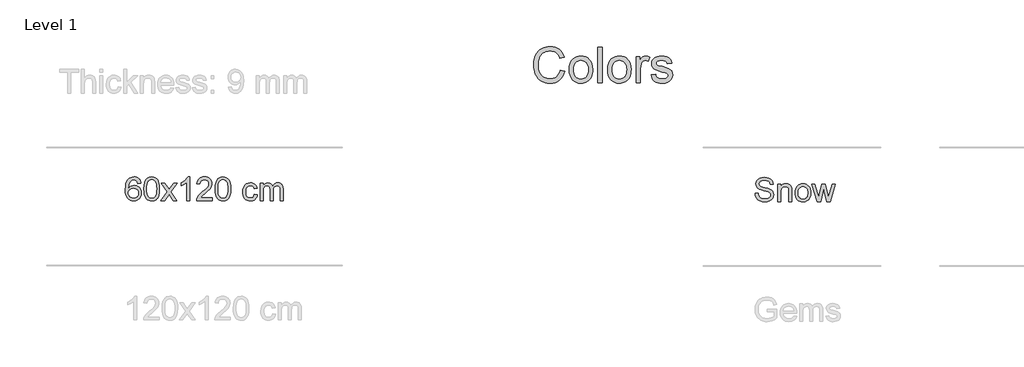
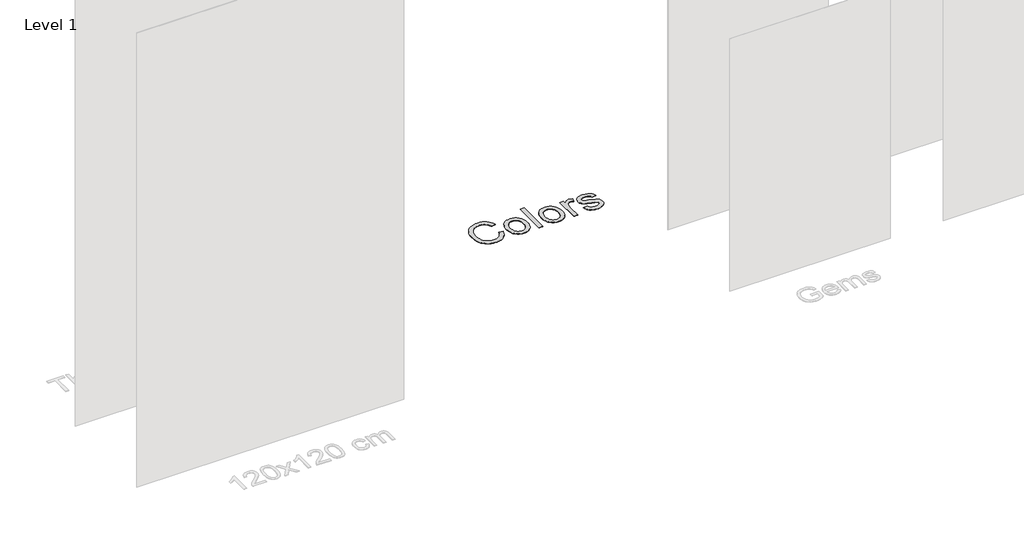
# One storey, part 4 of 7: 3 proxies.
"""IFC4 building model written with IfcOpenShell, lengths in millimetres."""

from ifc_helpers import new_model, si_unit, origin, origin_with_axes, place, context, project, spatial, polyline, outline, extrude, element, save

model = new_model("IFC4")

# Units and contexts
model_context = context("Model", 3, world=origin())
ifc_project = project(units=[si_unit("LENGTHUNIT", "METRE", prefix="MILLI")], contexts=[model_context])

# Site, building, storey
site = spatial("IfcSite", under=ifc_project)
building = spatial("IfcBuilding", under=site)
storey = spatial("IfcBuildingStorey", under=building, Name="Level 1", Elevation=0.0)

# Proxies
placement = place(None, origin())
element("IfcBuildingElementProxy", 1, Name="400mm Arial", ObjectType="400mm Arial", at=placement, inside=storey, context=model_context, shape_type="SweptSolid", body=[
    extrude(outline(polyline([(-4456.7985228, 9927.7533087), (-4406.5703677, 9927.7533087), (-4400.8068831, 9899.8801162), (-4390.3835599, 9877.4761027), (-4374.1231757, 9859.6951396), (-4350.8485082, 9845.6910983), (-4322.3989672, 9836.604413), (-4290.6139628, 9833.5755179), (-4262.6304057, 9835.868649), (-4238.1294648, 9842.7480423), (-4218.2760998, 9853.6373494), (-4204.2352703, 9867.9602217), (-4195.884349, 9884.4045469), (-4193.1007086, 9901.6582125), (-4195.1853733, 9918.4704196), (-4201.4393672, 9933.0017585), (-4214.1435587, 9945.3993817), (-4235.5788163, 9955.8104422), (-4308.713757, 9974.9893568), (-4356.7223573, 9987.6812857), (-4387.4405039, 9999.7600778), (-4412.4442169, 10016.6581242), (-4430.1638663, 10037.1368886), (-4440.7220796, 10060.7549126), (-4444.241484, 10087.070738), (-4439.8882137, 10116.4890349), (-4426.8284029, 10143.920769), (-4405.405408, 10167.1709111), (-4375.9625857, 10184.044432), (-4340.6213887, 10194.3083396), (-4301.5032699, 10197.7296422), (-4259.123264, 10194.1489241), (-4222.0407589, 10183.4067698), (-4191.5801297, 10165.7239086), (-4169.0657516, 10141.3210696), (-4154.8164557, 10111.7188317), (-4149.1510729, 10078.4377739), (-4199.379228, 10078.4377739), (-4208.6008033, 10108.4078938), (-4216.9639874, 10120.2659567), (-4227.828769, 10130.0393551), (-4257.8724652, 10143.1359541), (-4299.5412326, 10147.5014871), (-4342.1910185, 10143.185005), (-4358.4943223, 10137.7894024), (-4371.4498999, 10130.2355588), (-4388.3724717, 10111.1792715), (-4394.0133289, 10088.542266), (-4390.0156779, 10069.240724), (-4378.0227249, 10053.7161038), (-4349.6712858, 10039.8346899), (-4296.0095654, 10025.6589703), (-4240.6310624, 10012.1944893), (-4207.1292754, 10000.4467909), (-4178.4957934, 9982.2243694), (-4158.5198011, 9959.7345168), (-4146.7843654, 9933.2224877), (-4142.8725535, 9902.9335367), (-4147.3729766, 9871.9701355), (-4160.8742458, 9842.8461442), (-4182.8245382, 9817.7811176), (-4212.6720308, 9798.9946103), (-4248.5650508, 9787.2591747), (-4288.6519255, 9783.3473628), (-4337.8622737, 9787.565743), (-4378.3660814, 9800.2208837), (-4410.6293324, 9821.3618357), (-4435.1180105, 9851.0376499), (-4450.8388344, 9887.1881873), (-4456.7985228, 9927.7533087)])), origin_with_axes(), (0.0, 0.0, 1.0), 5.0),
    extrude(outline(polyline([(-4073.8088403, 9789.6258822), (-4073.8088403, 10084.7162933), (-4023.5806852, 10084.7162933), (-4023.5806852, 10043.5135098), (-4006.1308159, 10064.2865798), (-3985.1738049, 10079.1244869), (-3960.7096523, 10088.0272312), (-3932.7383579, 10090.9948127), (-3907.9798996, 10088.6035797), (-3885.306106, 10081.4298808), (-3866.3969714, 10070.3688955), (-3852.9324904, 10056.3158032), (-3843.7967542, 10039.3073923), (-3837.8738541, 10019.3804509), (-3835.2251037, 9970.8200276), (-3835.2251037, 9789.6258822), (-3885.4532588, 9789.6258822), (-3885.4532588, 9964.0509988), (-3886.9002613, 9990.0234677), (-3891.2412688, 10008.4911439), (-3899.2488336, 10021.722633), (-3911.6955078, 10031.9865406), (-3927.6493236, 10038.5716283), (-3946.1783135, 10040.7666576), (-3975.5966103, 10035.8370388), (-4000.6738997, 10021.0481826), (-4010.6956184, 10008.9755218), (-4017.8539888, 9992.4760143), (-4022.1490111, 9971.5496602), (-4023.5806852, 9946.1964594), (-4023.5806852, 9789.6258822), (-4073.8088403, 9789.6258822)])), origin_with_axes(), (0.0, 0.0, 1.0), 5.0),
    extrude(outline(polyline([(-3778.7184293, 9937.1710877), (-3776.0022339, 9975.3878957), (-3767.8536477, 10008.3194656), (-3754.2726707, 10035.9657975), (-3735.2593029, 10058.3268915), (-3716.1171764, 10072.619107), (-3694.9884871, 10082.8278324), (-3671.8732351, 10088.9530676), (-3646.7714203, 10090.9948127), (-3619.060709, 10088.5085435), (-3594.0048795, 10081.049736), (-3571.6039317, 10068.6183903), (-3551.8578656, 10051.2145062), (-3535.7415685, 10029.4266951), (-3524.2299277, 10003.843568), (-3517.3229433, 9974.465125), (-3515.0206151, 9941.2913661), (-3519.0918425, 9890.5481762), (-3531.3055248, 9851.9205667), (-3551.3060426, 9822.9927792), (-3578.7377767, 9801.3490551), (-3611.3198587, 9787.8477859), (-3646.7714203, 9783.3473628), (-3674.8868018, 9785.8244349), (-3700.1756233, 9793.2556512), (-3722.6378848, 9805.6410117), (-3742.2735863, 9822.9805164), (-3758.2182051, 9844.9798597), (-3769.6072185, 9871.3447361), (-3776.4406266, 9902.0751454), (-3778.7184293, 9937.1710877)]), holes=[polyline([(-3728.4902742, 9937.2691896), (-3727.0371403, 9912.9062045), (-3722.6777387, 9891.8112377), (-3715.4120692, 9873.9842894), (-3705.2401321, 9859.4253594), (-3692.8670343, 9848.1160538), (-3678.9978831, 9840.0379783), (-3663.6326784, 9835.191133), (-3646.7714203, 9833.5755179), (-3629.9960013, 9835.20033), (-3614.6921103, 9840.0747665), (-3600.8597473, 9848.1988272), (-3588.4989123, 9859.5725122), (-3578.3269751, 9874.2755293), (-3571.0613057, 9892.3875862), (-3566.7019041, 9913.9086829), (-3565.2487702, 9938.8388194), (-3566.7111011, 9962.4292524), (-3571.0980939, 9982.9723961), (-3578.4097486, 10000.4682507), (-3588.6460651, 10014.916816), (-3601.0528854, 10026.2261217), (-3614.8760513, 10034.3041972), (-3630.115563, 10039.1510425), (-3646.7714203, 10040.7666576), (-3663.6326784, 10039.1571738), (-3678.9978831, 10034.3287227), (-3692.8670343, 10026.281304), (-3705.2401321, 10015.0149179), (-3715.4120692, 10000.4989075), (-3722.6777387, 9982.702616), (-3727.0371403, 9961.6260434), (-3728.4902742, 9937.2691896)])]), origin_with_axes(), (0.0, 0.0, 1.0), 5.0),
    extrude(outline(polyline([(-3409.1687024, 9789.6258822), (-3499.3243166, 10084.7162933), (-3447.2322261, 10084.7162933), (-3396.2192561, 9912.5475195), (-3381.013467, 9851.0376499), (-3368.5545301, 9910.2911766), (-3328.0384597, 10084.7162933), (-3268.3925255, 10084.7162933), (-3227.8764551, 9910.7816859), (-3216.7909444, 9857.1199656), (-3200.8984422, 9913.7247419), (-3149.8854722, 10084.7162933), (-3097.499076, 10084.7162933), (-3187.9489959, 9789.6258822), (-3248.5759487, 9789.6258822), (-3287.2280837, 9962.6775727), (-3298.4116963, 10016.6335987), (-3348.1493421, 9789.6258822), (-3409.1687024, 9789.6258822)])), origin_with_axes(), (0.0, 0.0, 1.0), 5.0),
])
element("IfcBuildingElementProxy", 2, Name="400mm Arial", ObjectType="400mm Arial", at=placement, inside=storey, context=model_context, shape_type="SweptSolid", body=[
    extrude(outline(polyline([(-14846.8810506, 10100.1981534), (-14897.1092056, 10093.919634), (-14905.2026095, 10118.8129823), (-14916.1409675, 10135.8091305), (-14938.9251257, 10151.4809035), (-14966.4672245, 10156.7048278), (-14989.8154684, 10153.66367), (-15011.7902863, 10144.5401965), (-15030.6626326, 10125.3244936), (-15046.0768882, 10098.8737782), (-15056.4879487, 10061.4601793), (-15060.3507096, 10009.355826), (-15040.203039, 10032.8634855), (-15016.0577174, 10049.430438), (-14989.2636454, 10059.2528873), (-14961.1697237, 10062.5270371), (-14937.0366648, 10060.2890883), (-14914.7675414, 10053.5752418), (-14894.3623534, 10042.3854978), (-14875.8211008, 10026.7198562), (-14860.4129766, 10007.5102847), (-14849.4071736, 9985.688751), (-14842.8036918, 9961.2552552), (-14840.6025312, 9934.2097971), (-14844.747335, 9898.2432008), (-14857.1817464, 9864.9008293), (-14876.8756959, 9836.6229666), (-14902.7991138, 9815.8498966), (-14933.7747778, 9803.0843913), (-14968.6254655, 9798.8292229), (-14998.5679942, 9801.6496516), (-15025.6103865, 9810.1109374), (-15049.7526425, 9824.2130806), (-15070.994762, 9843.956081), (-15088.3128069, 9870.1738045), (-15100.682839, 9903.700117), (-15108.1048583, 9944.5350185), (-15110.5788647, 9992.6785089), (-15107.8320125, 10046.652929), (-15099.5914558, 10092.7178861), (-15085.8571946, 10130.8733804), (-15066.629229, 10161.1194118), (-15045.788714, 10181.1628491), (-15021.6249983, 10195.4795901), (-14994.1380819, 10204.0696347), (-14963.3279648, 10206.9329829), (-14940.1943186, 10205.161018), (-14919.2557017, 10199.8451231), (-14900.5121141, 10190.9852984), (-14883.9635557, 10178.5815438), (-14870.0576162, 10163.0507922), (-14859.2418856, 10144.8099767), (-14851.5163637, 10123.859097), (-14846.8810506, 10100.1981534)]), holes=[polyline([(-15060.3507096, 9934.9946121), (-15057.4444419, 9912.7377514), (-15048.7256386, 9891.4864348), (-15035.1875812, 9873.2149623), (-15017.823551, 9859.8976341), (-14996.86654, 9851.767442), (-14972.5495401, 9849.057378), (-14939.4033723, 9854.6737098), (-14925.4882359, 9861.6941245), (-14913.3450643, 9871.5227052), (-14903.4950239, 9883.7609129), (-14896.4592808, 9898.0102088), (-14890.8306862, 9932.5420654), (-14896.3857044, 9965.6882332), (-14903.329477, 9979.3090641), (-14913.0507588, 9990.9617263), (-14925.2307185, 10000.2967319), (-14939.5505251, 10006.9645931), (-14974.6096793, 10012.298882), (-15007.7067961, 10006.9645931), (-15035.3837849, 9990.9617263), (-15046.3068145, 9979.4623482), (-15054.1089784, 9966.3013699), (-15058.7902768, 9951.4787911), (-15060.3507096, 9934.9946121)])]), origin_with_axes(), (0.0, 0.0, 1.0), 5.0),
    extrude(outline(polyline([(-14796.6528955, 10002.783001), (-14792.9618128, 10067.1010365), (-14781.8885647, 10118.3960494), (-14763.5435159, 10157.4528546), (-14751.6854529, 10172.6862348), (-14738.0370309, 10185.0562669), (-14722.5522646, 10194.6273302), (-14705.1851687, 10201.4638039), (-14664.8039884, 10206.9329829), (-14633.8528499, 10203.6956213), (-14606.1390729, 10193.9835367), (-14582.9625072, 10178.1768736), (-14565.6230025, 10156.6557769), (-14552.5264035, 10129.6041875), (-14542.0785548, 10097.2060465), (-14535.2359497, 10056.0645767), (-14532.9550813, 10002.783001), (-14536.6093758, 9938.8328476), (-14547.5722593, 9887.660462), (-14565.8069435, 9848.5668687), (-14577.6374153, 9833.2875031), (-14591.2766403, 9820.8530917), (-14606.7798007, 9811.2176491), (-14624.2020789, 9804.3351901), (-14664.8039884, 9798.8292229), (-14692.4687144, 9801.2204559), (-14716.9941808, 9808.3941548), (-14738.3803874, 9820.3503196), (-14756.6273344, 9837.0889504), (-14774.1385174, 9867.3472445), (-14786.6465052, 9905.0490177), (-14794.1512979, 9950.1942698), (-14796.6528955, 10002.783001)]), holes=[polyline([(-14746.4247404, 10002.8811029), (-14744.9532124, 9959.2165758), (-14740.5386285, 9923.8723131), (-14733.1809886, 9896.8483149), (-14722.8802927, 9878.1445811), (-14710.4213558, 9865.4189297), (-14696.5889928, 9856.3291788), (-14681.3832037, 9850.8753282), (-14664.8039884, 9849.057378), (-14648.2247732, 9850.8814596), (-14633.018984, 9856.3537042), (-14619.186621, 9865.474112), (-14606.7276841, 9878.2426829), (-14596.4269882, 9896.9770736), (-14589.0693483, 9923.9949404), (-14584.6547644, 9959.2962835), (-14583.1832364, 10002.8811029), (-14584.6057135, 10045.3898675), (-14588.8731446, 10080.1117964), (-14595.9855298, 10107.0468898), (-14605.9428692, 10126.1951477), (-14618.1933396, 10139.5431328), (-14632.1851182, 10149.0774078), (-14647.9182048, 10154.7979728), (-14665.3925996, 10156.7048278), (-14681.8859757, 10155.0248334), (-14696.8342475, 10149.9848501), (-14710.2374148, 10141.5848778), (-14722.0954778, 10129.8249167), (-14732.7395302, 10108.9782703), (-14740.3424247, 10080.8720859), (-14744.9041615, 10045.5063634), (-14746.4247404, 10002.8811029)])]), origin_with_axes(), (0.0, 0.0, 1.0), 5.0),
    extrude(outline(polyline([(-14507.8410038, 9805.1077423), (-14400.5175631, 9953.5358646), (-14501.5624844, 10100.1981534), (-14441.3279391, 10100.1981534), (-14392.571312, 10029.4667084), (-14369.7135773, 9996.2101761), (-14349.8970005, 10023.4824946), (-14294.3713447, 10100.1981534), (-14233.9405957, 10100.1981534), (-14340.086814, 9953.4377628), (-14237.8646703, 9805.1077423), (-14298.1973175, 9805.1077423), (-14359.8052889, 9894.3804398), (-14370.9889016, 9910.7634513), (-14447.4102547, 9805.1077423), (-14507.8410038, 9805.1077423)])), origin_with_axes(), (0.0, 0.0, 1.0), 5.0),
    extrude(outline(polyline([(-14018.1164918, 9805.1077423), (-14068.3446469, 9805.1077423), (-14068.3446469, 10118.2488966), (-14089.3139206, 10101.2895366), (-14115.9240516, 10084.3547021), (-14168.800957, 10058.9953699), (-14168.800957, 10106.4766728), (-14129.3517444, 10127.9364558), (-14095.1755071, 10153.4674663), (-14068.2342823, 10180.6171575), (-14050.4901074, 10206.9329829), (-14018.1164918, 10206.9329829), (-14018.1164918, 9805.1077423)])), origin_with_axes(), (0.0, 0.0, 1.0), 5.0),
    extrude(outline(polyline([(-13641.4053288, 9855.3358974), (-13641.4053288, 9805.1077423), (-13905.1031429, 9805.1077423), (-13903.9994969, 9822.7906035), (-13899.7075403, 9839.7377008), (-13887.3099171, 9866.8015529), (-13869.1488092, 9893.0560646), (-13842.8942975, 9920.5368497), (-13806.2164626, 9951.2795217), (-13752.0274447, 9999.4230122), (-13719.5434645, 10034.9604129), (-13703.3198685, 10063.8023613), (-13697.9120032, 10091.8594948), (-13703.0255629, 10117.0103605), (-13718.3662421, 10137.9183206), (-13741.947478, 10152.008201), (-13771.7827078, 10156.7048278), (-13803.1139911, 10152.1185656), (-13827.4555165, 10138.359779), (-13843.1640776, 10116.5075885), (-13848.5964684, 10087.6411146), (-13898.8246235, 10093.919634), (-13894.5050758, 10119.8491833), (-13886.6477295, 10142.5045828), (-13875.2525847, 10161.8858326), (-13860.3196414, 10177.9929326), (-13842.192256, 10190.6542046), (-13821.2137853, 10199.6979703), (-13797.384229, 10205.1242298), (-13770.7035873, 10206.9329829), (-13743.7838223, 10204.9218947), (-13719.8255074, 10198.8886299), (-13698.8286425, 10188.8331887), (-13680.7932277, 10174.7555711), (-13666.3078741, 10157.6981092), (-13655.961193, 10138.7031355), (-13649.7531844, 10117.77065), (-13647.6838481, 10094.9006526), (-13649.9156656, 10070.8779584), (-13656.6111179, 10047.272197), (-13668.4937063, 10023.2617654), (-13686.2869322, 9998.0250606), (-13714.650634, 9967.8955252), (-13758.2446504, 9929.206602), (-13816.0266491, 9880.8914333), (-13838.68818, 9855.3358974), (-13641.4053288, 9855.3358974)])), origin_with_axes(), (0.0, 0.0, 1.0), 5.0),
    extrude(outline(polyline([(-13591.1771737, 10002.783001), (-13587.486091, 10067.1010365), (-13576.4128429, 10118.3960494), (-13558.0677941, 10157.4528546), (-13546.2097311, 10172.6862348), (-13532.5613091, 10185.0562669), (-13517.0765428, 10194.6273302), (-13499.7094469, 10201.4638039), (-13459.3282666, 10206.9329829), (-13428.3771281, 10203.6956213), (-13400.6633511, 10193.9835367), (-13377.4867854, 10178.1768736), (-13360.1472807, 10156.6557769), (-13347.0506817, 10129.6041875), (-13336.602833, 10097.2060465), (-13329.7602279, 10056.0645767), (-13327.4793595, 10002.783001), (-13331.133654, 9938.8328476), (-13342.0965375, 9887.660462), (-13360.3312217, 9848.5668687), (-13372.1616935, 9833.2875031), (-13385.8009185, 9820.8530917), (-13401.3040789, 9811.2176491), (-13418.7263571, 9804.3351901), (-13459.3282666, 9798.8292229), (-13486.9929926, 9801.2204559), (-13511.518459, 9808.3941548), (-13532.9046656, 9820.3503196), (-13551.1516126, 9837.0889504), (-13568.6627956, 9867.3472445), (-13581.1707834, 9905.0490177), (-13588.6755761, 9950.1942698), (-13591.1771737, 10002.783001)]), holes=[polyline([(-13540.9490186, 10002.8811029), (-13539.4774906, 9959.2165758), (-13535.0629067, 9923.8723131), (-13527.7052668, 9896.8483149), (-13517.4045709, 9878.1445811), (-13504.945634, 9865.4189297), (-13491.113271, 9856.3291788), (-13475.9074819, 9850.8753282), (-13459.3282666, 9849.057378), (-13442.7490514, 9850.8814596), (-13427.5432622, 9856.3537042), (-13413.7108992, 9865.474112), (-13401.2519623, 9878.2426829), (-13390.9512664, 9896.9770736), (-13383.5936265, 9923.9949404), (-13379.1790426, 9959.2962835), (-13377.7075146, 10002.8811029), (-13379.1299917, 10045.3898675), (-13383.3974228, 10080.1117964), (-13390.509808, 10107.0468898), (-13400.4671474, 10126.1951477), (-13412.7176178, 10139.5431328), (-13426.7093964, 10149.0774078), (-13442.442483, 10154.7979728), (-13459.9168778, 10156.7048278), (-13476.4102539, 10155.0248334), (-13491.3585257, 10149.9848501), (-13504.761693, 10141.5848778), (-13516.619756, 10129.8249167), (-13527.2638084, 10108.9782703), (-13534.866703, 10080.8720859), (-13539.4284397, 10045.5063634), (-13540.9490186, 10002.8811029)])]), origin_with_axes(), (0.0, 0.0, 1.0), 5.0),
    extrude(outline(polyline([(-12925.6541189, 9911.8425718), (-12875.4259639, 9905.5640525), (-12880.8890115, 9881.8632549), (-12889.4300051, 9860.8909155), (-12901.0489448, 9842.6470342), (-12915.7458305, 9827.1316111), (-12932.9013942, 9814.7493163), (-12951.8963679, 9805.90482), (-12972.7307516, 9800.5981222), (-12995.4045452, 9798.8292229), (-13023.575109, 9801.297098), (-13048.8332737, 9808.7007231), (-13071.1790392, 9821.0400984), (-13090.6124056, 9838.3152237), (-13106.3424266, 9860.2011368), (-13117.5781558, 9886.372875), (-13124.3195934, 9916.8304386), (-13126.5667392, 9951.5738273), (-13122.7285038, 9996.2714897), (-13111.2137973, 10035.0094638), (-13091.8386789, 10066.2916961), (-13064.4192075, 10088.6221333), (-13031.6163963, 10102.0130379), (-12996.0912583, 10106.4766728), (-12973.8068064, 10104.9438311), (-12953.6499388, 10100.3453062), (-12935.6206553, 10092.6810979), (-12919.7189561, 10081.9512064), (-12906.2146212, 10068.4008863), (-12895.3774307, 10052.2753921), (-12887.2073848, 10033.574724), (-12881.7044833, 10012.298882), (-12931.9326383, 10006.0203626), (-12941.0438491, 10027.9338668), (-12955.2318314, 10043.642428), (-12973.7117702, 10053.0969953), (-12995.6988508, 10056.2485177), (-13012.7655097, 10054.6972819), (-13028.1583055, 10050.0435747), (-13041.8772383, 10042.287396), (-13053.9223079, 10031.4287457), (-13063.7294288, 10017.216238), (-13070.7345151, 9999.3984867), (-13074.9375669, 9977.9754918), (-13076.3385842, 9952.9472534), (-13070.8571424, 9905.8706208), (-13064.0053403, 9887.9333078), (-13054.4128173, 9873.7299971), (-13042.6068709, 9862.9357263), (-13029.1147987, 9855.2255328), (-13013.9366007, 9850.5994167), (-12997.0722769, 9849.057378), (-12971.0630199, 9852.9078762), (-12949.7381269, 9864.4593709), (-12934.2257694, 9884.0061675), (-12925.6541189, 9911.8425718)])), origin_with_axes(), (0.0, 0.0, 1.0), 5.0),
    extrude(outline(polyline([(-12831.4763282, 9805.1077423), (-12831.4763282, 10100.1981534), (-12781.2481731, 10100.1981534), (-12781.2481731, 10051.63773), (-12766.1404858, 10073.9436416), (-12746.7163165, 10091.4180364), (-12723.6378527, 10102.7120137), (-12697.5672819, 10106.4766728), (-12669.6327758, 10102.6384373), (-12647.241025, 10091.1237308), (-12630.5146569, 10072.6928429), (-12619.576299, 10048.1060629), (-12601.2680383, 10073.6432047), (-12580.3846037, 10091.8840203), (-12556.9259952, 10102.8285096), (-12530.8922127, 10106.4766728), (-12510.7843959, 10104.9591595), (-12493.1352572, 10100.4066198), (-12477.9447965, 10092.8190537), (-12465.2130138, 10082.1964611), (-12455.1483755, 10068.4162147), (-12447.9593482, 10051.3556871), (-12443.6459318, 10031.0148785), (-12442.2081263, 10007.3937887), (-12442.2081263, 9805.1077423), (-12492.4362814, 9805.1077423), (-12492.4362814, 9985.8113783), (-12493.6012411, 10010.8641422), (-12497.09612, 10027.7499258), (-12503.6444195, 10039.3136832), (-12513.9696409, 10048.4003684), (-12527.2501809, 10054.2864804), (-12542.6644365, 10056.2485177), (-12569.8754414, 10051.2207971), (-12592.0587257, 10036.1376353), (-12600.6640987, 10024.5677465), (-12606.8107937, 10009.9689627), (-12611.7281497, 9971.6847097), (-12611.7281497, 9805.1077423), (-12661.9563048, 9805.1077423), (-12661.9563048, 9991.4031847), (-12664.8625726, 10019.8036747), (-12673.5813758, 10040.0617099), (-12688.922055, 10052.2018157), (-12711.6939505, 10056.2485177), (-12731.0445435, 10053.5507164), (-12748.8745575, 10045.4573125), (-12763.5898373, 10032.1645097), (-12773.5962276, 10013.8685118), (-12779.3351867, 9988.4846542), (-12781.2481731, 9953.9282721), (-12781.2481731, 9805.1077423), (-12831.4763282, 9805.1077423)])), origin_with_axes(), (0.0, 0.0, 1.0), 5.0),
])
element("IfcBuildingElementProxy", 3, Name="600mm Arial", ObjectType="600mm Arial", at=placement, inside=storey, context=model_context, shape_type="SweptSolid", body=[
    extrude(outline(polyline([(-7751.7554681, 12013.3203972), (-7676.4132355, 11993.8962278), (-7691.3216534, 11947.0418572), (-7711.1780841, 11906.1011897), (-7735.9825276, 11871.0742252), (-7765.734984, 11841.9609638), (-7799.7640685, 11819.0741052), (-7837.3983966, 11802.726349), (-7878.6379683, 11792.9176953), (-7923.4827835, 11789.6481441), (-7969.4266462, 11792.1221505), (-8010.8731514, 11799.5441698), (-8047.8222993, 11811.9142019), (-8080.2740898, 11829.2322468), (-8108.6745799, 11851.2407871), (-8133.4698263, 11877.6823056), (-8154.6598293, 11908.556802), (-8172.2445886, 11943.8642765), (-8186.053959, 11982.0780187), (-8195.917795, 12021.6713185), (-8201.8360966, 12062.6441757), (-8203.8088638, 12104.9965904), (-8201.5785792, 12150.4392138), (-8194.8877254, 12192.883599), (-8183.7363025, 12232.329746), (-8168.1243103, 12268.7776546), (-8148.4012368, 12301.6249183), (-8124.91657, 12330.2691301), (-8097.6703097, 12354.7102902), (-8066.662456, 12374.9483984), (-8032.9460712, 12390.817908), (-7997.5742173, 12402.153272), (-7960.5468945, 12408.9544904), (-7921.8641027, 12411.2215632), (-7878.7713255, 12408.2877042), (-7839.2562007, 12399.4861275), (-7803.3187283, 12384.816833), (-7770.9589083, 12364.2798206), (-7742.7101696, 12338.4177163), (-7719.1059411, 12307.7731461), (-7700.1462227, 12272.34611), (-7685.8310146, 12232.1366079), (-7761.1732472, 12214.1839665), (-7773.0374416, 12243.8122627), (-7787.2928689, 12269.1271425), (-7803.9395292, 12290.1286059), (-7822.9774224, 12306.8166529), (-7844.5169132, 12319.5315744), (-7868.6683662, 12328.6136611), (-7895.4317814, 12334.0629132), (-7924.8071587, 12335.8793305), (-7958.606317, 12333.8651766), (-7989.5176016, 12327.8227148), (-8017.5410126, 12317.7519452), (-8042.6765499, 12303.6528678), (-8064.6069154, 12286.1600789), (-8083.0148107, 12265.9081751), (-8097.9002359, 12242.8971563), (-8109.2631911, 12217.1270225), (-8123.6657712, 12161.9815114), (-8128.4666312, 12105.1437432), (-8122.7828544, 12035.5404697), (-8115.6781333, 12004.2705001), (-8105.7315239, 11975.3549753), (-8092.7820777, 11949.3687108), (-8076.6688463, 11926.8865224), (-8057.3918297, 11907.90841), (-8034.951028, 11892.4343736), (-8010.4362916, 11880.4276249), (-7984.9374708, 11871.8513759), (-7958.4545657, 11866.7056265), (-7930.9875762, 11864.9903767), (-7898.232283, 11867.3264274), (-7868.0981491, 11874.3345794), (-7840.5851744, 11886.0148327), (-7815.6933589, 11902.3671874), (-7794.0113138, 11923.3180671), (-7776.1276503, 11948.7938952), (-7762.0423684, 11978.7946719), (-7751.7554681, 12013.3203972)])), origin_with_axes(), (0.0, 0.0, 1.0), 5.0),
    extrude(outline(polyline([(-7601.0710029, 12020.3837315), (-7596.9967098, 12077.7089434), (-7584.7738305, 12127.1062983), (-7564.402365, 12168.5757962), (-7535.8823134, 12202.1174371), (-7507.1691237, 12223.5557604), (-7475.4760898, 12238.8688484), (-7440.8032117, 12248.0567012), (-7403.1504895, 12251.1193189), (-7361.5844226, 12247.3899151), (-7324.0006783, 12236.201704), (-7290.3992565, 12217.5546853), (-7260.7801574, 12191.4488592), (-7236.6057118, 12158.7671425), (-7219.3382506, 12120.3924519), (-7208.9777739, 12076.3247874), (-7205.5242817, 12026.564149), (-7207.050992, 11986.2350853), (-7211.6311228, 11950.4493642), (-7219.2646742, 11919.2069858), (-7229.9516462, 11892.50795), (-7243.5586815, 11869.4463474), (-7259.9524229, 11849.1162686), (-7279.1328704, 11831.5177137), (-7301.1000241, 11816.6506826), (-7324.9985582, 11804.837072), (-7349.9731471, 11796.3987787), (-7376.0237909, 11791.3358028), (-7403.1504895, 11789.6481441), (-7445.3235617, 11793.3637523), (-7483.256794, 11804.5105767), (-7516.9501862, 11823.0886175), (-7546.4037384, 11849.0978745), (-7570.3206666, 11882.0968895), (-7587.4041868, 11921.644204), (-7597.6542989, 11967.739818), (-7601.0710029, 12020.3837315)]), holes=[polyline([(-7525.7287703, 12020.5308843), (-7523.5490695, 11983.9864066), (-7517.009967, 11952.3439565), (-7506.1114629, 11925.6035339), (-7490.8535572, 11903.765139), (-7472.2939105, 11886.8011805), (-7451.4901837, 11874.6840673), (-7428.4423767, 11867.4137994), (-7403.1504895, 11864.9903767), (-7377.987361, 11867.4275949), (-7355.0315245, 11874.7392496), (-7334.28298, 11886.9253407), (-7315.7417275, 11903.9858682), (-7300.4838217, 11926.0403938), (-7289.5853176, 11953.2084792), (-7283.0462151, 11985.4901242), (-7280.8665143, 12022.885329), (-7283.0600107, 12058.2709785), (-7289.6404999, 12089.0856941), (-7300.6079819, 12115.3294759), (-7315.9624567, 12137.002324), (-7334.5726871, 12153.9662825), (-7355.307436, 12166.0833957), (-7378.1667035, 12173.3536636), (-7403.1504895, 12175.7770862), (-7428.4423767, 12173.3628606), (-7451.4901837, 12166.1201839), (-7472.2939105, 12154.0490559), (-7490.8535572, 12137.1494767), (-7506.1114629, 12115.3754612), (-7517.009967, 12088.6810239), (-7523.5490695, 12057.0661649), (-7525.7287703, 12020.5308843)])]), origin_with_axes(), (0.0, 0.0, 1.0), 5.0),
    extrude(outline(polyline([(-7120.76427, 11799.0659232), (-7120.76427, 12401.8037841), (-7045.4220374, 12401.8037841), (-7045.4220374, 11799.0659232), (-7120.76427, 11799.0659232)])), origin_with_axes(), (0.0, 0.0, 1.0), 5.0),
    extrude(outline(polyline([(-6951.2442466, 12020.3837315), (-6947.1699535, 12077.7089434), (-6934.9470743, 12127.1062983), (-6914.5756088, 12168.5757962), (-6886.0555571, 12202.1174371), (-6857.3423674, 12223.5557604), (-6825.6493335, 12238.8688484), (-6790.9764554, 12248.0567012), (-6753.3237332, 12251.1193189), (-6711.7576663, 12247.3899151), (-6674.173922, 12236.201704), (-6640.5725002, 12217.5546853), (-6610.9534011, 12191.4488592), (-6586.7789555, 12158.7671425), (-6569.5114943, 12120.3924519), (-6559.1510177, 12076.3247874), (-6555.6975254, 12026.564149), (-6557.2242357, 11986.2350853), (-6561.8043665, 11950.4493642), (-6569.4379179, 11919.2069858), (-6580.1248899, 11892.50795), (-6593.7319252, 11869.4463474), (-6610.1256666, 11849.1162686), (-6629.3061141, 11831.5177137), (-6651.2732678, 11816.6506826), (-6675.1718019, 11804.837072), (-6700.1463908, 11796.3987787), (-6726.1970346, 11791.3358028), (-6753.3237332, 11789.6481441), (-6795.4968055, 11793.3637523), (-6833.4300377, 11804.5105767), (-6867.1234299, 11823.0886175), (-6896.5769822, 11849.0978745), (-6920.4939104, 11882.0968895), (-6937.5774305, 11921.644204), (-6947.8275426, 11967.739818), (-6951.2442466, 12020.3837315)]), holes=[polyline([(-6875.902014, 12020.5308843), (-6873.7223132, 11983.9864066), (-6867.1832107, 11952.3439565), (-6856.2847066, 11925.6035339), (-6841.0268009, 11903.765139), (-6822.4671542, 11886.8011805), (-6801.6634274, 11874.6840673), (-6778.6156204, 11867.4137994), (-6753.3237332, 11864.9903767), (-6728.1606048, 11867.4275949), (-6705.2047683, 11874.7392496), (-6684.4562237, 11886.9253407), (-6665.9149712, 11903.9858682), (-6650.6570654, 11926.0403938), (-6639.7585613, 11953.2084792), (-6633.2194589, 11985.4901242), (-6631.039758, 12022.885329), (-6633.2332544, 12058.2709785), (-6639.8137436, 12089.0856941), (-6650.7812256, 12115.3294759), (-6666.1357004, 12137.002324), (-6684.7459308, 12153.9662825), (-6705.4806798, 12166.0833957), (-6728.3399472, 12173.3536636), (-6753.3237332, 12175.7770862), (-6778.6156204, 12173.3628606), (-6801.6634274, 12166.1201839), (-6822.4671542, 12154.0490559), (-6841.0268009, 12137.1494767), (-6856.2847066, 12115.3754612), (-6867.1832107, 12088.6810239), (-6873.7223132, 12057.0661649), (-6875.902014, 12020.5308843)])]), origin_with_axes(), (0.0, 0.0, 1.0), 5.0),
    extrude(outline(polyline([(-6470.9375137, 11799.0659232), (-6470.9375137, 12241.7015398), (-6405.0130602, 12241.7015398), (-6405.0130602, 12176.2185446), (-6380.6592721, 12214.1839665), (-6358.2184704, 12236.5511918), (-6335.7040923, 12247.4772871), (-6311.129575, 12251.1193189), (-6273.6056115, 12245.3067833), (-6235.4930368, 12227.8691768), (-6260.6561653, 12160.3260424), (-6287.1436689, 12171.9143253), (-6313.6311726, 12175.7770862), (-6336.1271566, 12172.0614781), (-6356.2319076, 12160.9146536), (-6372.4738977, 12143.1827415), (-6383.3815989, 12119.7118702), (-6392.5418606, 12077.6261699), (-6395.5952811, 12031.7144969), (-6395.5952811, 11799.0659232), (-6470.9375137, 11799.0659232)])), origin_with_axes(), (0.0, 0.0, 1.0), 5.0),
    extrude(outline(polyline([(-6216.6574787, 11930.9148303), (-6141.3152461, 11940.3326093), (-6136.7627064, 11923.1525202), (-6129.4326576, 11908.1061466), (-6119.3250998, 11895.1934885), (-6106.4400329, 11884.4145461), (-6090.7406688, 11875.916472), (-6072.1902192, 11869.8464191), (-6026.5360636, 11864.9903767), (-5981.433731, 11869.4417489), (-5963.9041539, 11875.005964), (-5949.722303, 11882.7958653), (-5930.9603212, 11902.1464582), (-5926.2698258, 11912.980583), (-5924.7063273, 11924.5872599), (-5926.2790228, 11934.7591971), (-5930.9971094, 11943.7907001), (-5949.8694558, 11958.4324035), (-5978.0860048, 11967.9973354), (-6027.4189804, 11979.916712), (-6096.1761252, 11999.8007339), (-6140.8737877, 12016.7784879), (-6169.5869774, 12035.3013464), (-6190.3907042, 12059.8206814), (-6203.0274507, 12088.7729944), (-6207.2396996, 12120.594787), (-6203.8551852, 12149.7862233), (-6193.7016422, 12176.7335794), (-6177.6987754, 12200.3699976), (-6156.7662899, 12219.6286201), (-6135.962563, 12231.7503318), (-6108.8680541, 12241.922269), (-6077.5429022, 12248.8200564), (-6044.0472465, 12251.1193189), (-5995.0085766, 12247.4221048), (-5952.3710533, 12236.3304626), (-5918.0844514, 12218.9296443), (-5894.0985453, 12196.3049016), (-5878.2060431, 12166.7823715), (-5868.1996528, 12128.6881909), (-5943.5418855, 12119.2704118), (-5953.051635, 12142.9804064), (-5971.8687991, 12160.8410772), (-6000.1773186, 12172.043084), (-6038.1611346, 12175.7770862), (-6081.4240572, 12172.2086309), (-6110.2660057, 12161.5032648), (-6126.4896017, 12146.052221), (-6131.897467, 12128.2467325), (-6129.6533868, 12116.6584496), (-6122.9211463, 12106.3209656), (-6111.4064398, 12097.0871275), (-6094.8149619, 12089.6926994), (-6029.9205779, 12073.6530444), (-5919.3352502, 12038.18922), (-5890.1254198, 12021.2298601), (-5867.9789236, 11998.0165062), (-5854.0178019, 11968.475582), (-5849.3640947, 11932.533511), (-5854.8271423, 11895.3774295), (-5871.2162852, 11860.42864), (-5897.9061239, 11830.4278633), (-5934.2712592, 11808.1158203), (-5978.1963694, 11794.2650631), (-6027.5661331, 11789.6481441), (-6068.1159261, 11791.8738302), (-6103.5337652, 11798.5508884), (-6133.8196504, 11809.6793187), (-6158.9735818, 11825.2591212), (-6179.5197913, 11845.2167195), (-6195.9825105, 11869.4785371), (-6208.3617397, 11898.044574), (-6216.6574787, 11930.9148303)])), origin_with_axes(), (0.0, 0.0, 1.0), 5.0),
])

save(model, "model.ifc")
